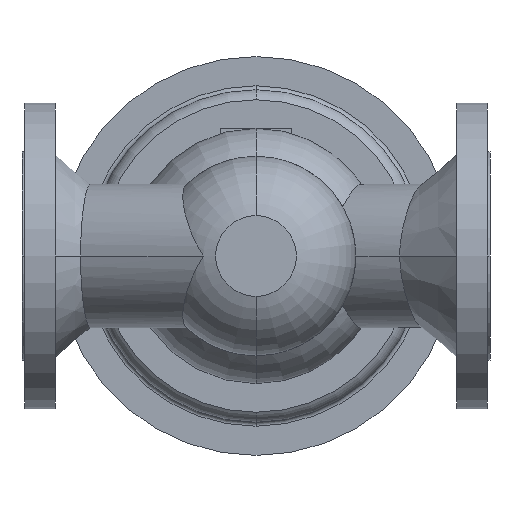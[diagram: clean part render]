
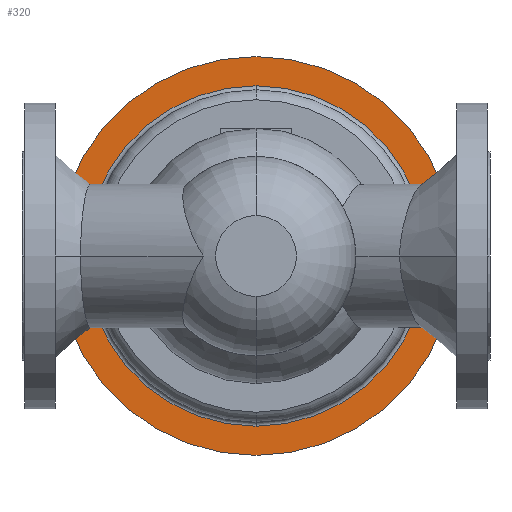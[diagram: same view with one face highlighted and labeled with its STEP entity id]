
A CAD part, front view. The second image highlights one B-rep face of the part: STEP entity #320.
In plain terms, the highlighted planar face has unit normal (0, -1, 0).
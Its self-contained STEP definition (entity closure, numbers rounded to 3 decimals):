
#320 = ADVANCED_FACE( '', ( #778, #779 ), #780, .T. );
#778 = FACE_OUTER_BOUND( '', #1245, .T. );
#779 = FACE_BOUND( '', #1246, .T. );
#780 = PLANE( '', #1247 );
#1245 = EDGE_LOOP( '', ( #2857, #2858 ) );
#1246 = EDGE_LOOP( '', ( #2859, #2860, #2861 ) );
#1247 = AXIS2_PLACEMENT_3D( '', #2862, #2863, #2864 );
#2857 = ORIENTED_EDGE( '', *, *, #3256, .F. );
#2858 = ORIENTED_EDGE( '', *, *, #3427, .F. );
#2859 = ORIENTED_EDGE( '', *, *, #3425, .T. );
#2860 = ORIENTED_EDGE( '', *, *, #3263, .T. );
#2861 = ORIENTED_EDGE( '', *, *, #3426, .T. );
#2862 = CARTESIAN_POINT( '', ( 315., 501., 0. ) );
#2863 = DIRECTION( '', ( 0., -1., 0. ) );
#2864 = DIRECTION( '', ( -1., 0., 0. ) );
#3256 = EDGE_CURVE( '', #4004, #4007, #4008, .T. );
#3263 = EDGE_CURVE( '', #4013, #4019, #4021, .T. );
#3425 = EDGE_CURVE( '', #4290, #4013, #4291, .T. );
#3426 = EDGE_CURVE( '', #4019, #4290, #4292, .T. );
#3427 = EDGE_CURVE( '', #4007, #4004, #4293, .T. );
#4004 = VERTEX_POINT( '', #5721 );
#4007 = VERTEX_POINT( '', #5725 );
#4008 = CIRCLE( '', #5726, 150. );
#4013 = VERTEX_POINT( '', #5732 );
#4019 = VERTEX_POINT( '', #5738 );
#4021 = CIRCLE( '', #5740, 128. );
#4290 = VERTEX_POINT( '', #6078 );
#4291 = CIRCLE( '', #6079, 128. );
#4292 = CIRCLE( '', #6080, 128. );
#4293 = CIRCLE( '', #6081, 150. );
#5721 = CARTESIAN_POINT( '', ( 326., 501., 0. ) );
#5725 = CARTESIAN_POINT( '', ( 26., 501., 0. ) );
#5726 = AXIS2_PLACEMENT_3D( '', #6773, #6774, #6775 );
#5732 = CARTESIAN_POINT( '', ( 176., 501., -128. ) );
#5738 = CARTESIAN_POINT( '', ( 176., 501., 128. ) );
#5740 = AXIS2_PLACEMENT_3D( '', #6792, #6793, #6794 );
#6078 = CARTESIAN_POINT( '', ( 304., 501., 0. ) );
#6079 = AXIS2_PLACEMENT_3D( '', #7140, #7141, #7142 );
#6080 = AXIS2_PLACEMENT_3D( '', #7143, #7144, #7145 );
#6081 = AXIS2_PLACEMENT_3D( '', #7146, #7147, #7148 );
#6773 = CARTESIAN_POINT( '', ( 176., 501., 0. ) );
#6774 = DIRECTION( '', ( 0., 1., 0. ) );
#6775 = DIRECTION( '', ( 1., 0., 0. ) );
#6792 = CARTESIAN_POINT( '', ( 176., 501., 0. ) );
#6793 = DIRECTION( '', ( 0., 1., 0. ) );
#6794 = DIRECTION( '', ( 1., 0., 0. ) );
#7140 = CARTESIAN_POINT( '', ( 176., 501., 0. ) );
#7141 = DIRECTION( '', ( 0., 1., 0. ) );
#7142 = DIRECTION( '', ( 1., 0., 0. ) );
#7143 = CARTESIAN_POINT( '', ( 176., 501., 0. ) );
#7144 = DIRECTION( '', ( 0., 1., 0. ) );
#7145 = DIRECTION( '', ( 1., 0., 0. ) );
#7146 = CARTESIAN_POINT( '', ( 176., 501., 0. ) );
#7147 = DIRECTION( '', ( 0., 1., 0. ) );
#7148 = DIRECTION( '', ( 1., 0., 0. ) );
